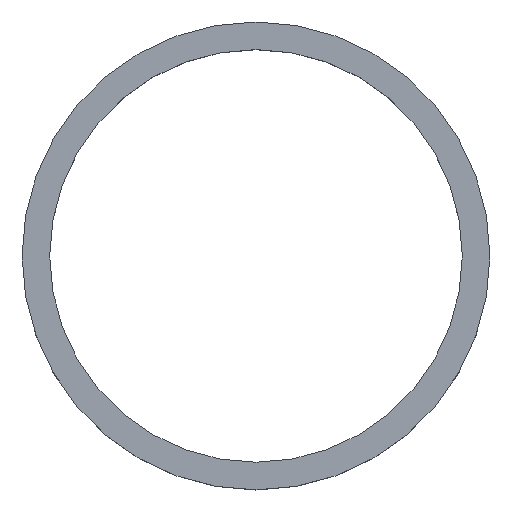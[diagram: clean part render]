
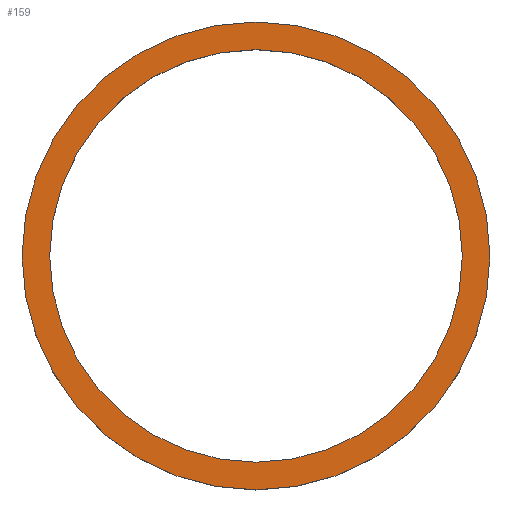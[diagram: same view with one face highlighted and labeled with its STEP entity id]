
A CAD part, top view. The second image highlights one B-rep face of the part: STEP entity #159.
In plain terms, the highlighted planar face has unit normal (0, 0, 1).
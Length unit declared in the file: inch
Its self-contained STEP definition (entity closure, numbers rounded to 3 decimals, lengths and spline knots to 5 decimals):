
#1 = AXIS2_PLACEMENT_3D ( 'NONE', #27, #172, #103 ) ;
#3 = DIRECTION ( 'NONE',  ( 1., 0., 0. ) ) ;
#12 = DIRECTION ( 'NONE',  ( 0., 0., 1. ) ) ;
#14 = CARTESIAN_POINT ( 'NONE',  ( 0., 0., 0.32087 ) ) ;
#15 = DIRECTION ( 'NONE',  ( 1., 0., 0. ) ) ;
#16 = VERTEX_POINT ( 'NONE', #94 ) ;
#17 = CIRCLE ( 'NONE', #52, 0.88189 ) ;
#23 = AXIS2_PLACEMENT_3D ( 'NONE', #177, #93, #3 ) ;
#27 = CARTESIAN_POINT ( 'NONE',  ( 0., 0., 0.32087 ) ) ;
#40 = DIRECTION ( 'NONE',  ( 0., 0., 1. ) ) ;
#41 = AXIS2_PLACEMENT_3D ( 'NONE', #14, #128, #15 ) ;
#46 = ORIENTED_EDGE ( 'NONE', *, *, #130, .T. ) ;
#49 = ORIENTED_EDGE ( 'NONE', *, *, #146, .F. ) ;
#52 = AXIS2_PLACEMENT_3D ( 'NONE', #184, #40, #87 ) ;
#54 = PLANE ( 'NONE',  #23 ) ;
#55 = VERTEX_POINT ( 'NONE', #152 ) ;
#56 = EDGE_LOOP ( 'NONE', ( #95, #46 ) ) ;
#58 = CIRCLE ( 'NONE', #1, 1. ) ;
#61 = CIRCLE ( 'NONE', #41, 0.88189 ) ;
#85 = VERTEX_POINT ( 'NONE', #161 ) ;
#87 = DIRECTION ( 'NONE',  ( 1., 0., 0. ) ) ;
#93 = DIRECTION ( 'NONE',  ( 0., 0., 1. ) ) ;
#94 = CARTESIAN_POINT ( 'NONE',  ( -0.88189, 0., 0.32087 ) ) ;
#95 = ORIENTED_EDGE ( 'NONE', *, *, #114, .T. ) ;
#103 = DIRECTION ( 'NONE',  ( 1., 0., 0. ) ) ;
#106 = CIRCLE ( 'NONE', #188, 1. ) ;
#110 = DIRECTION ( 'NONE',  ( 1., 0., 0. ) ) ;
#114 = EDGE_CURVE ( 'NONE', #55, #85, #106, .T. ) ;
#120 = ORIENTED_EDGE ( 'NONE', *, *, #192, .F. ) ;
#128 = DIRECTION ( 'NONE',  ( 0., 0., 1. ) ) ;
#130 = EDGE_CURVE ( 'NONE', #85, #55, #58, .T. ) ;
#131 = FACE_BOUND ( 'NONE', #141, .T. ) ;
#138 = CARTESIAN_POINT ( 'NONE',  ( 0., 0., 0.32087 ) ) ;
#141 = EDGE_LOOP ( 'NONE', ( #120, #49 ) ) ;
#146 = EDGE_CURVE ( 'NONE', #185, #16, #61, .T. ) ;
#152 = CARTESIAN_POINT ( 'NONE',  ( -1., 0., 0.32087 ) ) ;
#159 = ADVANCED_FACE ( 'NONE', ( #131, #199 ), #54, .T. ) ;
#161 = CARTESIAN_POINT ( 'NONE',  ( 1., 0., 0.32087 ) ) ;
#172 = DIRECTION ( 'NONE',  ( 0., 0., 1. ) ) ;
#177 = CARTESIAN_POINT ( 'NONE',  ( 0., 0., 0.32087 ) ) ;
#182 = CARTESIAN_POINT ( 'NONE',  ( 0.88189, 0., 0.32087 ) ) ;
#184 = CARTESIAN_POINT ( 'NONE',  ( 0., 0., 0.32087 ) ) ;
#185 = VERTEX_POINT ( 'NONE', #182 ) ;
#188 = AXIS2_PLACEMENT_3D ( 'NONE', #138, #12, #110 ) ;
#192 = EDGE_CURVE ( 'NONE', #16, #185, #17, .T. ) ;
#199 = FACE_OUTER_BOUND ( 'NONE', #56, .T. ) ;
